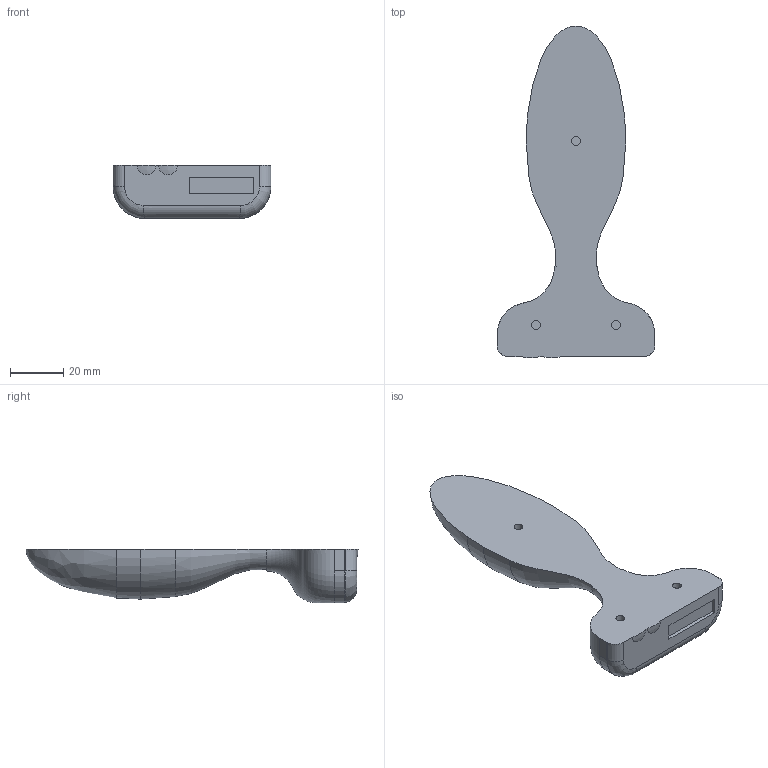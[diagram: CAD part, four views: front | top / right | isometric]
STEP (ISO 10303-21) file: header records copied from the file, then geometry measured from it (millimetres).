
FILE_DESCRIPTION(('FreeCAD Model'),'2;1');
FILE_NAME('Open CASCADE Shape Model','2026-11-21T15:21:18',('Author'),( ''),'Open CASCADE STEP processor 7.8','FreeCAD','Unknown');
FILE_SCHEMA(('AUTOMOTIVE_DESIGN { 1 0 10303 214 1 1 1 1 }'));
Length unit declared in the file: millimetre
Products named in the file (1): MockupHalfB0
Bounding box: 59.2 x 124.5 x 20 mm (x, y, z)
Volume: 54820.3 mm3; surface area: 12121.9 mm2
Topology: 1 solids, 1 shells, 36 faces, 86 edges, 55 vertices
Faces by surface type: plane 14, bspline 11, cylinder 5, revolution 4, sphere 2
Full cylindrical faces by diameter (mm): 3.3 x3
Entity records: 13757 total; most frequent: CARTESIAN_POINT 12996, ORIENTED_EDGE 170, DIRECTION 118, EDGE_CURVE 85, VERTEX_POINT 55, AXIS2_PLACEMENT_3D 41, FACE_BOUND 40, EDGE_LOOP 40
